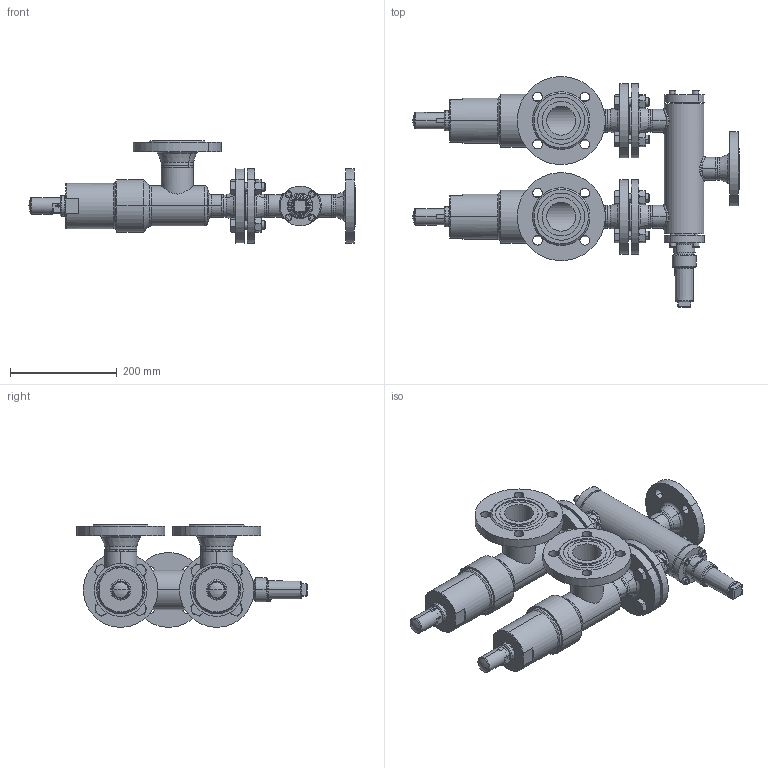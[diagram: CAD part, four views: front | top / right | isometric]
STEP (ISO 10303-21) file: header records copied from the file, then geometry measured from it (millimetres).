
FILE_DESCRIPTION (( 'STEP AP214' ), '1' );
FILE_NAME ('WVR-SVAA_1A7FL_DN32_DIN-FL_seitlich.STEP', '2010-09-08T13:22:39', ( 'Eckhard Grams' ), ( 'AWP Kälte Klima Armaturen GmbH' ), 'SwSTEP 2.0', 'SolidWorks 2002296', '' );
FILE_SCHEMA (( 'AUTOMOTIVE_DESIGN' ));
Length unit declared in the file: millimetre
Products named in the file (30): WVR-SVAA_1A7FL_DN32_DIN-FL_seitlich; SVAA 45620D13-DN32(50)_DIN; Flachdichtg-Alu-DN32; Haube 45700E13-5260003_DN32; Gehkpl 45720E13-5030001; Geh 45700E13-5034004_DN32; Rohrstutzen-A 45700E13-5036004_DN32(50)_Standard; Flansch-DIN2635-Nut_PS40_DIN-Flansch-DN050_PS40-Nut; bead Geh,kpl 45720E13-2_Standard; bead Geh,kpl 45720E13-1_Standard; Kappe SVA-SVU-ORV_DN10-40 (M27x1,5)_Standard; WVR24020D13-DN032_DIN-FL-N-F_PS40_Standard; WVB-R23000E13_Deck+Schr-DN25-32_Standard; Deckel23000E13-DN25-32_Standard; Geh,kpl24020E13-DN32_DIN-FL-N-F_PS40_Standard; Flansch-DIN2635-Feder_PS40_DIN-Flansch-DN032_PS40-Feder; Geh,kpl24000E13_DN32_R1_PS40_Standard; Gehäuse24000E13-DN32_R1_PS40_Standard; Rohrstutzen-24000E13-DN32_R1_Standard; Schw-24000E13-DN32_Standard; beadC4020-13-3_Standard; Flansch-DIN2635-Nut_PS40_DIN-Flansch-DN032_PS40-Nut; beadC4020-13-2_Standard; beadC4020-13-1_Standard; AVR26300E13_Deck+Schr-DN25-32_Standard; Deckel26300E13-DN25-32_Standard; Zylinderschraube-DIN912_M 8x  25; Kappe 16402-13_DN10-32 (M36x2)_Standard; Sechskantschraube-DIN933_M16x 55; Sechskantmutter-DIN934_M16
Assembly tree (57 placements, depth 5):
  WVR-SVAA_1A7FL_DN32_DIN-FL_seitlich
    Sechskantschraube-DIN933_M16x 55  x8
    Sechskantmutter-DIN934_M16  x8
    SVAA 45620D13-DN32(50)_DIN  x2
      Kappe SVA-SVU-ORV_DN10-40 (M27x1,5)_Standard
      Gehkpl 45720E13-5030001
        Geh 45700E13-5034004_DN32
        Flansch-DIN2635-Nut_PS40_DIN-Flansch-DN050_PS40-Nut
        Flansch-DIN2635-Nut_PS40_DIN-Flansch-DN032_PS40-Nut
        Rohrstutzen-A 45700E13-5036004_DN32(50)_Standard
        bead Geh,kpl 45720E13-2_Standard
        bead Geh,kpl 45720E13-1_Standard
      Haube 45700E13-5260003_DN32
      Flachdichtg-Alu-DN32
    WVR24020D13-DN032_DIN-FL-N-F_PS40_Standard
      AVR26300E13_Deck+Schr-DN25-32_Standard
        Zylinderschraube-DIN912_M 8x  25  x4
        Deckel26300E13-DN25-32_Standard
      Kappe 16402-13_DN10-32 (M36x2)_Standard
      Geh,kpl24020E13-DN32_DIN-FL-N-F_PS40_Standard
        Flansch-DIN2635-Feder_PS40_DIN-Flansch-DN032_PS40-Feder  x2
        Flansch-DIN2635-Nut_PS40_DIN-Flansch-DN032_PS40-Nut
        beadC4020-13-3_Standard
        beadC4020-13-1_Standard
        Geh,kpl24000E13_DN32_R1_PS40_Standard
          Schw-24000E13-DN32_Standard  x3
          Rohrstutzen-24000E13-DN32_R1_Standard  x3
          Gehäuse24000E13-DN32_R1_PS40_Standard
        beadC4020-13-2_Standard
      WVB-R23000E13_Deck+Schr-DN25-32_Standard
        Zylinderschraube-DIN912_M 8x  25  x4
        Deckel23000E13-DN25-32_Standard
Bounding box: 611.5 x 431.69 x 191.73 mm (x, y, z)
Volume: 4322540.3 mm3; surface area: 1016501.1 mm2
Topology: 58 solids, 58 shells, 1415 faces, 3241 edges, 1991 vertices
Faces by surface type: cylinder 500, cone 379, plane 379, torus 95, bspline 54, sphere 8
Entity records: 43037 total; most frequent: CARTESIAN_POINT 27078, DIRECTION 2935, ORIENTED_EDGE 2770, EDGE_CURVE 1385, AXIS2_PLACEMENT_3D 1251, VERTEX_POINT 862, EDGE_LOOP 695, CIRCLE 632
